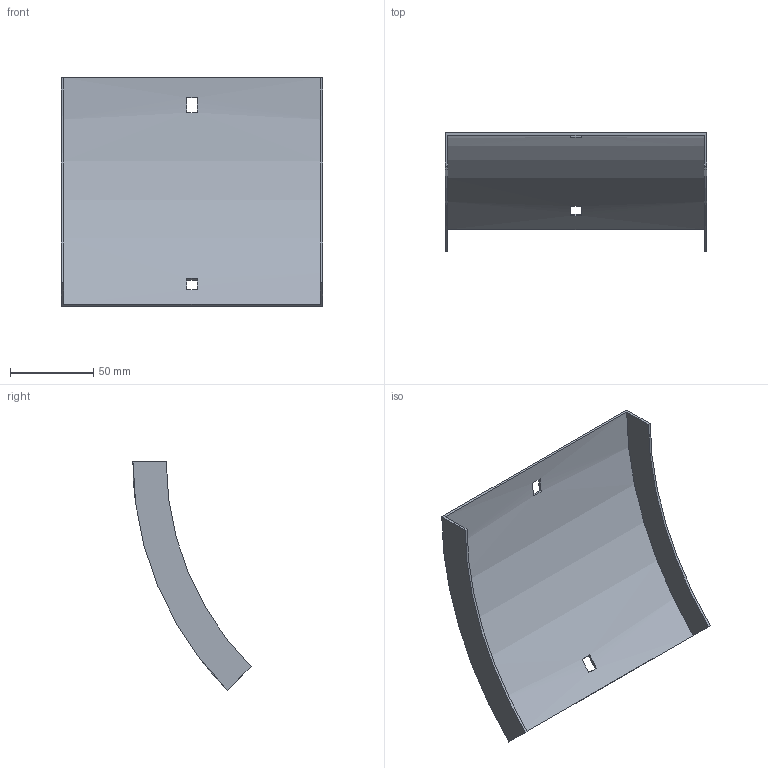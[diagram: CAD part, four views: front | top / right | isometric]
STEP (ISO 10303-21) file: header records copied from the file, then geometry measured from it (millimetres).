
FILE_DESCRIPTION (( 'STEP AP214' ), '1' );
FILE_NAME ('34N1I150.step', '2025-02-21T09:16:23', ( '' ), ( '' ), 'SwSTEP 2.0', 'SolidWorks 2023', '' );
FILE_SCHEMA (( 'AUTOMOTIVE_DESIGN' ));
Length unit declared in the file: millimetre
Products named in the file (1): 34N1I150
Bounding box: 157 x 70.96 x 137.18 mm (x, y, z)
Volume: 43555.4 mm3; surface area: 59161 mm2
Topology: 1 solids, 1 shells, 18 faces, 48 edges, 32 vertices
Faces by surface type: plane 14, cylinder 4
Entity records: 599 total; most frequent: DIRECTION 102, CARTESIAN_POINT 99, ORIENTED_EDGE 96, EDGE_CURVE 48, AXIS2_PLACEMENT_3D 35, VECTOR 32, LINE 32, VERTEX_POINT 32
